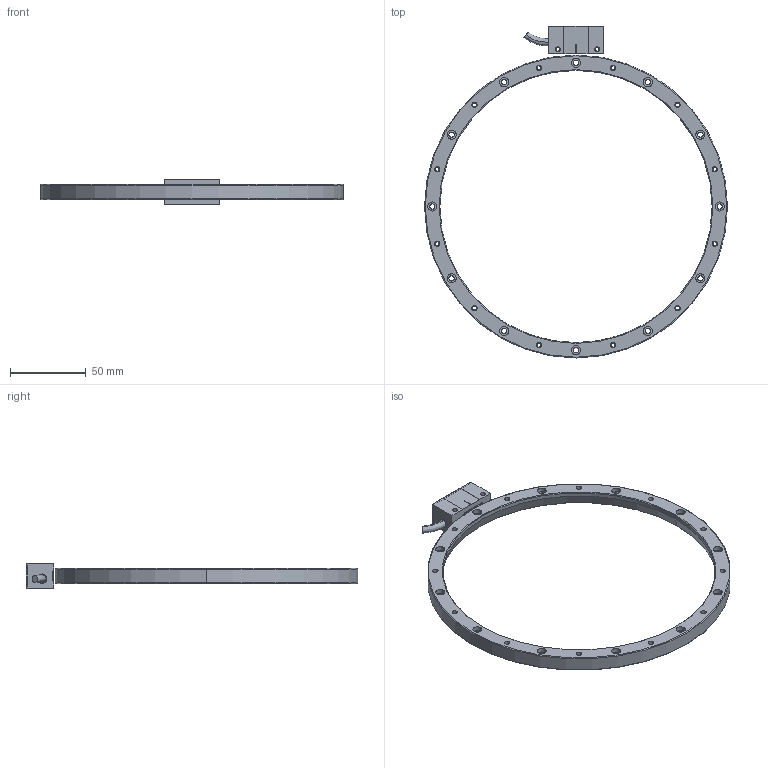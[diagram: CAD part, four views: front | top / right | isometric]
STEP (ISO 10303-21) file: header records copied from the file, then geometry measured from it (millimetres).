
FILE_DESCRIPTION (( 'STEP AP203' ), '1' );
FILE_NAME ('橈勤硉埴掑200郪磁.STEP', '2022-11-23T08:43:41', ( '' ), ( '' ), 'SwSTEP 2.0', 'SolidWorks 2016', '' );
FILE_SCHEMA (( 'CONFIG_CONTROL_DESIGN' ));
Length unit declared in the file: millimetre
Products named in the file (3): 200埴遠; 橈勤硉俋倛_2; 橈勤硉埴掑200郪磁
Assembly tree (2 placements, depth 2):
  橈勤硉埴掑200郪磁
    200埴遠
    橈勤硉俋倛_2
Bounding box: 200.3 x 219.5 x 16.5 mm (x, y, z)
Volume: 64548.7 mm3; surface area: 30654.8 mm2
Topology: 6 solids, 6 shells, 240 faces, 578 edges, 379 vertices
Faces by surface type: cylinder 144, plane 80, cone 10, torus 4, bspline 2
Entity records: 7811 total; most frequent: CARTESIAN_POINT 1526, DIRECTION 1358, ORIENTED_EDGE 1148, EDGE_CURVE 574, AXIS2_PLACEMENT_3D 547, VERTEX_POINT 379, EDGE_LOOP 331, CIRCLE 304
